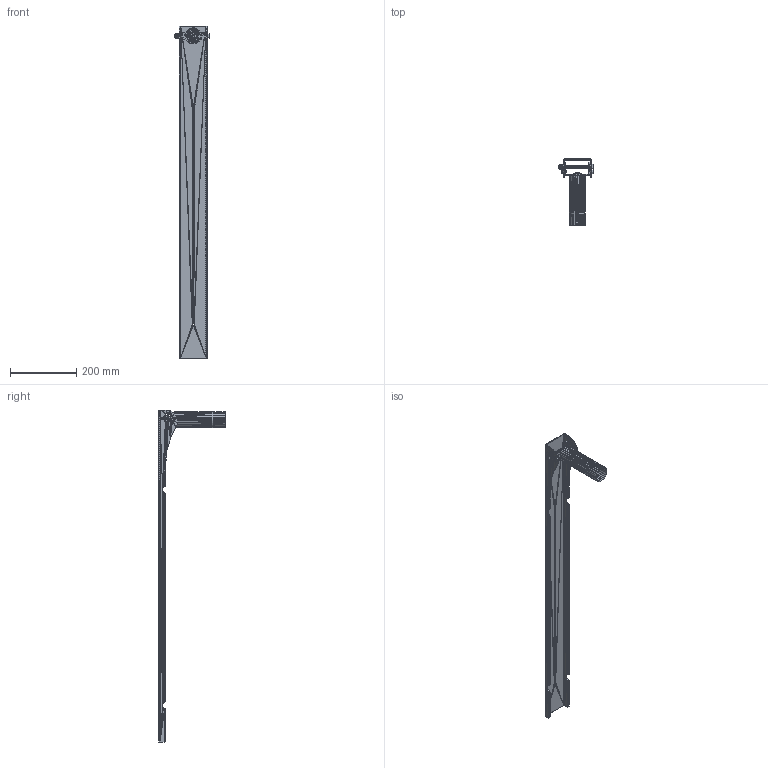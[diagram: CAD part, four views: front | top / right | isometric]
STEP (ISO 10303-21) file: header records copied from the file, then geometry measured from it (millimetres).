
FILE_DESCRIPTION((''),'2;1');
FILE_NAME('051084', '2026-02-10T11:11:04', (''), (''), 'ImageToStl.com STEP Converter','', '');
FILE_SCHEMA(('AUTOMOTIVE_DESIGN_CC2'));
Length unit declared in the file: metre
Products named in the file (1): product0
Bounding box: 104.7 x 200 x 1000 mm (x, y, z)
Surface area: 312250.2 mm2 (no closed solid volume)
Topology: 0 solids, 9456 shells, 9456 faces, 28368 edges, 4708 vertices
Faces by surface type: plane 9456
Entity records: 217476 total; most frequent: DIRECTION 47282, ORIENTED_EDGE 28368, EDGE_CURVE 28368, LINE 28368, VECTOR 28368, AXIS2_PLACEMENT_3D 9457, FACE_SURFACE 9456, PLANE 9456
